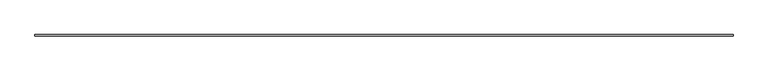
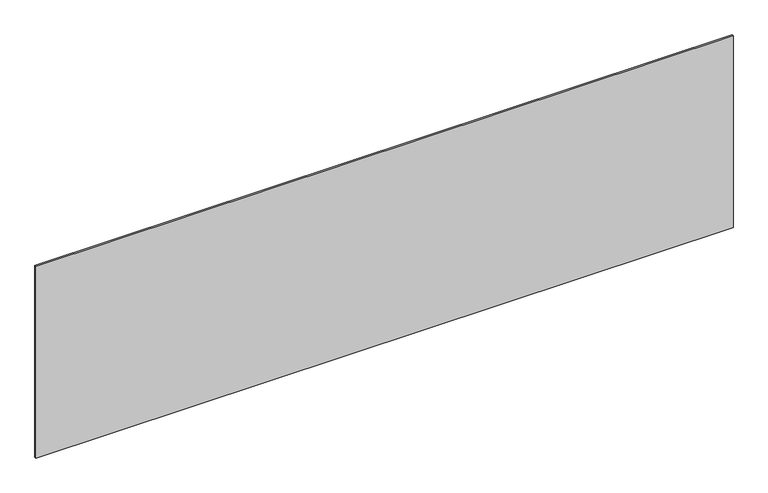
"""IFC4 building model written with IfcOpenShell, lengths in millimetres: plate geometry, システム パネル : 標準."""

from ifc_helpers import new_model, si_unit, origin, origin_with_axes, place, context, project, spatial, polyline, outline, extrude, source, transform, mapped, element, save


def plate_fbfa9490(model_context):
    return source(origin(), model_context, "Body", "SweptSolid", [
        extrude(outline(polyline([(2281.6666667, -5.0), (-2281.6666667, -5.0), (-2281.6666667, 5.0), (2281.6666667, 5.0), (2281.6666667, -5.0)])), origin_with_axes(), (0.0, 0.0, 1.0), 1327.5187473),
    ])


if __name__ == "__main__":
    model = new_model("IFC4")
    model_context = context("Model", 3, world=origin())
    ifc_project = project(units=[si_unit("LENGTHUNIT", "METRE", prefix="MILLI")], contexts=[model_context])
    site = spatial("IfcSite", under=ifc_project)
    building = spatial("IfcBuilding", under=site)
    placement = place(None, origin())
    plate_shape = plate_fbfa9490(model_context)
    element("IfcPlate", 1, ObjectType="システム パネル : 標準", at=placement, inside=building, context=model_context, shape_type="MappedRepresentation", body=[
        mapped(plate_shape, transform((0.0, 0.0, 0.0), x_axis=(1.0, 0.0, 0.0), y_axis=(0.0, 1.0, 0.0), z_axis=(0.0, 0.0, 1.0))),
    ])
    save(model, "model.ifc")
